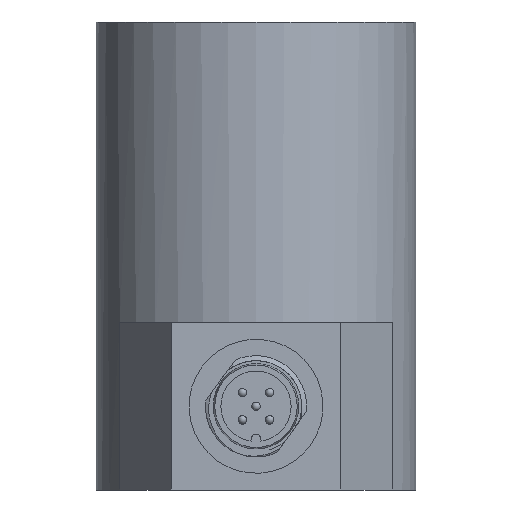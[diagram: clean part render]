
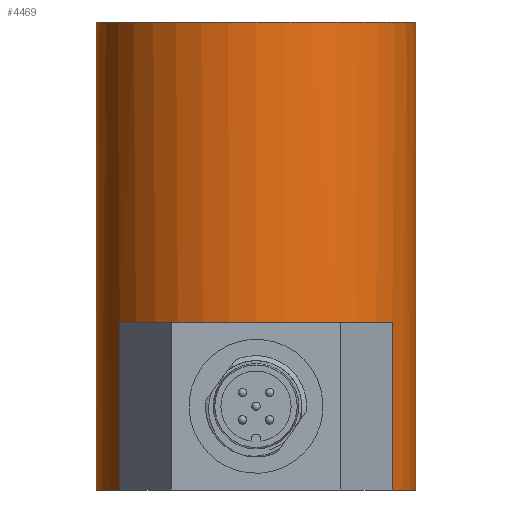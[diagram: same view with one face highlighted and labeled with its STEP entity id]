
A CAD part, front view. The second image highlights one B-rep face of the part: STEP entity #4469.
In plain terms, the highlighted cylindrical face has radius 19.1 mm (diameter 38.2 mm), a partial arc.
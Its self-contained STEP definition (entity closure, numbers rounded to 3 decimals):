
#54 = CIRCLE ( 'NONE', #57, 19.1 ) ;
#55 = CARTESIAN_POINT ( 'NONE',  ( 0., 0., 0. ) ) ;
#56 = DIRECTION ( 'NONE',  ( 0., 0., 1. ) ) ;
#57 = AXIS2_PLACEMENT_3D ( 'NONE', #55, #56, #125 ) ;
#125 = DIRECTION ( 'NONE',  ( 1., 0., 0. ) ) ;
#4363 = EDGE_CURVE ( 'NONE', #4493, #4500, #7373, .T. ) ;
#4468 = EDGE_CURVE ( 'NONE', #4524, #4500, #7490, .T. ) ;
#4469 = ADVANCED_FACE ( 'NONE', ( #7486 ), #7485, .T. ) ;
#4470 = EDGE_LOOP ( 'NONE', ( #4471, #4472, #4475, #4478, #4599, #4863, #4752, #4804 ) ) ;
#4471 = ORIENTED_EDGE ( 'NONE', *, *, #4523, .F. ) ;
#4472 = ORIENTED_EDGE ( 'NONE', *, *, #4473, .T. ) ;
#4473 = EDGE_CURVE ( 'NONE', #4494, #4474, #7484, .T. ) ;
#4474 = VERTEX_POINT ( 'NONE', #7475 ) ;
#4475 = ORIENTED_EDGE ( 'NONE', *, *, #4476, .F. ) ;
#4476 = EDGE_CURVE ( 'NONE', #4477, #4474, #7474, .T. ) ;
#4477 = VERTEX_POINT ( 'NONE', #7470 ) ;
#4478 = ORIENTED_EDGE ( 'NONE', *, *, #4479, .T. ) ;
#4479 = EDGE_CURVE ( 'NONE', #4477, #4480, #7469, .T. ) ;
#4480 = VERTEX_POINT ( 'NONE', #7464 ) ;
#4493 = VERTEX_POINT ( 'NONE', #7634 ) ;
#4494 = VERTEX_POINT ( 'NONE', #7633 ) ;
#4500 = VERTEX_POINT ( 'NONE', #7622 ) ;
#4523 = EDGE_CURVE ( 'NONE', #4494, #4524, #7551, .T. ) ;
#4524 = VERTEX_POINT ( 'NONE', #7601 ) ;
#4599 = ORIENTED_EDGE ( 'NONE', *, *, #4600, .T. ) ;
#4600 = EDGE_CURVE ( 'NONE', #4480, #4601, #7663, .T. ) ;
#4601 = VERTEX_POINT ( 'NONE', #7659 ) ;
#4751 = EDGE_CURVE ( 'NONE', #4601, #4493, #54, .T. ) ;
#4752 = ORIENTED_EDGE ( 'NONE', *, *, #4363, .T. ) ;
#4804 = ORIENTED_EDGE ( 'NONE', *, *, #4468, .F. ) ;
#4863 = ORIENTED_EDGE ( 'NONE', *, *, #4751, .T. ) ;
#7370 = DIRECTION ( 'NONE',  ( 0., 0., 1. ) ) ;
#7371 = VECTOR ( 'NONE', #7370, 1000. ) ;
#7372 = CARTESIAN_POINT ( 'NONE',  ( 19.1, 0., 45.075 ) ) ;
#7373 = LINE ( 'NONE', #7372, #7371 ) ;
#7437 = CARTESIAN_POINT ( 'NONE',  ( 0., 0., 55.9 ) ) ;
#7464 = CARTESIAN_POINT ( 'NONE',  ( 16.273, -10., 20. ) ) ;
#7465 = DIRECTION ( 'NONE',  ( -1., 0., 0. ) ) ;
#7466 = DIRECTION ( 'NONE',  ( 0., 0., 1. ) ) ;
#7467 = CARTESIAN_POINT ( 'NONE',  ( 0., 0., 20. ) ) ;
#7468 = AXIS2_PLACEMENT_3D ( 'NONE', #7467, #7466, #7465 ) ;
#7469 = CIRCLE ( 'NONE', #7468, 19.1 ) ;
#7470 = CARTESIAN_POINT ( 'NONE',  ( -16.273, -10., 20. ) ) ;
#7471 = DIRECTION ( 'NONE',  ( 0., 0., -1. ) ) ;
#7472 = VECTOR ( 'NONE', #7471, 1000. ) ;
#7473 = CARTESIAN_POINT ( 'NONE',  ( -16.273, -10., 20. ) ) ;
#7474 = LINE ( 'NONE', #7473, #7472 ) ;
#7475 = CARTESIAN_POINT ( 'NONE',  ( -16.273, -10., 0. ) ) ;
#7476 = DIRECTION ( 'NONE',  ( 1., 0., 0. ) ) ;
#7477 = DIRECTION ( 'NONE',  ( 0., 0., 1. ) ) ;
#7478 = CARTESIAN_POINT ( 'NONE',  ( 0., 0., 0. ) ) ;
#7479 = AXIS2_PLACEMENT_3D ( 'NONE', #7478, #7477, #7476 ) ;
#7480 = DIRECTION ( 'NONE',  ( 1., 0., 0. ) ) ;
#7481 = DIRECTION ( 'NONE',  ( 0., 0., 1. ) ) ;
#7482 = CARTESIAN_POINT ( 'NONE',  ( 0., 0., 45.075 ) ) ;
#7483 = AXIS2_PLACEMENT_3D ( 'NONE', #7482, #7481, #7480 ) ;
#7484 = CIRCLE ( 'NONE', #7479, 19.1 ) ;
#7485 = CYLINDRICAL_SURFACE ( 'NONE', #7483, 19.1 ) ;
#7486 = FACE_OUTER_BOUND ( 'NONE', #4470, .T. ) ;
#7487 = DIRECTION ( 'NONE',  ( 1., 0., 0. ) ) ;
#7488 = DIRECTION ( 'NONE',  ( 0., 0., 1. ) ) ;
#7489 = AXIS2_PLACEMENT_3D ( 'NONE', #7437, #7488, #7487 ) ;
#7490 = CIRCLE ( 'NONE', #7489, 19.1 ) ;
#7548 = DIRECTION ( 'NONE',  ( 0., 0., 1. ) ) ;
#7549 = VECTOR ( 'NONE', #7548, 1000. ) ;
#7550 = CARTESIAN_POINT ( 'NONE',  ( -19.1, 0., 45.075 ) ) ;
#7551 = LINE ( 'NONE', #7550, #7549 ) ;
#7601 = CARTESIAN_POINT ( 'NONE',  ( -19.1, 0., 55.9 ) ) ;
#7622 = CARTESIAN_POINT ( 'NONE',  ( 19.1, 0., 55.9 ) ) ;
#7633 = CARTESIAN_POINT ( 'NONE',  ( -19.1, 0., 0. ) ) ;
#7634 = CARTESIAN_POINT ( 'NONE',  ( 19.1, 0., 0. ) ) ;
#7659 = CARTESIAN_POINT ( 'NONE',  ( 16.273, -10., 0. ) ) ;
#7660 = DIRECTION ( 'NONE',  ( 0., 0., -1. ) ) ;
#7661 = VECTOR ( 'NONE', #7660, 1000. ) ;
#7662 = CARTESIAN_POINT ( 'NONE',  ( 16.273, -10., 20. ) ) ;
#7663 = LINE ( 'NONE', #7662, #7661 ) ;
